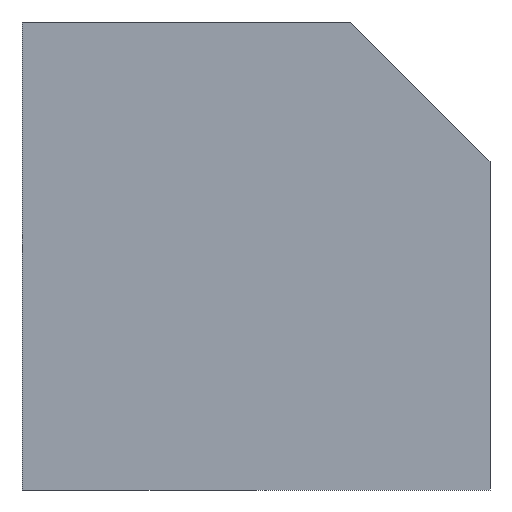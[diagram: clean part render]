
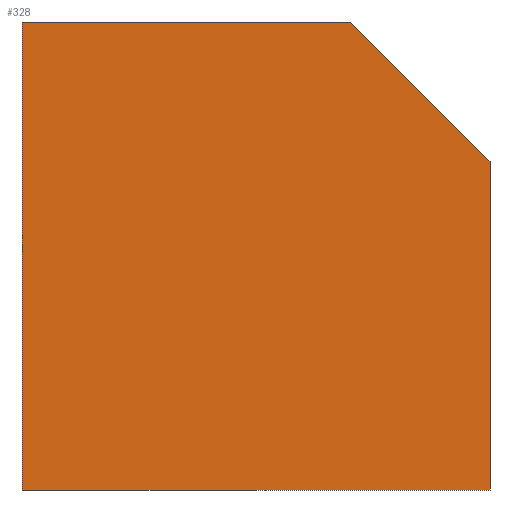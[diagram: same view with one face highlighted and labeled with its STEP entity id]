
A CAD part, left-side view. The second image highlights one B-rep face of the part: STEP entity #328.
In plain terms, the highlighted planar face has unit normal (-1, 0, 0).
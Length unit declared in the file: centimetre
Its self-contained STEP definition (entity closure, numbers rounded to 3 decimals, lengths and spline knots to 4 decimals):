
#1 = LINE ( 'NONE', #60, #110 ) ;
#29 = DIRECTION ( 'NONE',  ( 0., -1., 0. ) ) ;
#35 = LINE ( 'NONE', #144, #307 ) ;
#50 = CARTESIAN_POINT ( 'NONE',  ( 0., 1000., 1000. ) ) ;
#56 = FACE_OUTER_BOUND ( 'NONE', #274, .T. ) ;
#60 = CARTESIAN_POINT ( 'NONE',  ( 0., 298.609, 1000. ) ) ;
#62 = DIRECTION ( 'NONE',  ( 0., 0., -1. ) ) ;
#65 = DIRECTION ( 'NONE',  ( 0., -1., 0. ) ) ;
#68 = ORIENTED_EDGE ( 'NONE', *, *, #323, .T. ) ;
#78 = CARTESIAN_POINT ( 'NONE',  ( 0., 1000., 0. ) ) ;
#79 = VERTEX_POINT ( 'NONE', #121 ) ;
#85 = LINE ( 'NONE', #397, #380 ) ;
#96 = EDGE_CURVE ( 'NONE', #266, #79, #284, .T. ) ;
#99 = EDGE_CURVE ( 'NONE', #114, #79, #1, .T. ) ;
#104 = EDGE_CURVE ( 'NONE', #114, #333, #35, .T. ) ;
#110 = VECTOR ( 'NONE', #377, 100. ) ;
#114 = VERTEX_POINT ( 'NONE', #221 ) ;
#115 = CARTESIAN_POINT ( 'NONE',  ( 0., 1000., 1000. ) ) ;
#121 = CARTESIAN_POINT ( 'NONE',  ( 0., 298.609, 1000. ) ) ;
#124 = AXIS2_PLACEMENT_3D ( 'NONE', #50, #166, #178 ) ;
#144 = CARTESIAN_POINT ( 'NONE',  ( 0., 0., 1000. ) ) ;
#166 = DIRECTION ( 'NONE',  ( 1., 0., 0. ) ) ;
#178 = DIRECTION ( 'NONE',  ( 0., 0., -1. ) ) ;
#210 = CARTESIAN_POINT ( 'NONE',  ( 0., 1000., 1000. ) ) ;
#217 = CARTESIAN_POINT ( 'NONE',  ( 0., 1000., 0. ) ) ;
#221 = CARTESIAN_POINT ( 'NONE',  ( 0., 0., 701.391 ) ) ;
#236 = EDGE_CURVE ( 'NONE', #266, #367, #85, .T. ) ;
#266 = VERTEX_POINT ( 'NONE', #115 ) ;
#271 = VECTOR ( 'NONE', #29, 100. ) ;
#272 = ORIENTED_EDGE ( 'NONE', *, *, #99, .T. ) ;
#274 = EDGE_LOOP ( 'NONE', ( #392, #272, #393, #339, #68 ) ) ;
#284 = LINE ( 'NONE', #210, #325 ) ;
#301 = CARTESIAN_POINT ( 'NONE',  ( 0., 0., 0. ) ) ;
#307 = VECTOR ( 'NONE', #62, 100. ) ;
#323 = EDGE_CURVE ( 'NONE', #367, #333, #363, .T. ) ;
#325 = VECTOR ( 'NONE', #65, 100. ) ;
#328 = ADVANCED_FACE ( 'NONE', ( #56 ), #399, .F. ) ;
#333 = VERTEX_POINT ( 'NONE', #301 ) ;
#339 = ORIENTED_EDGE ( 'NONE', *, *, #236, .T. ) ;
#363 = LINE ( 'NONE', #78, #271 ) ;
#367 = VERTEX_POINT ( 'NONE', #217 ) ;
#369 = DIRECTION ( 'NONE',  ( 0., 0., -1. ) ) ;
#377 = DIRECTION ( 'NONE',  ( 0., 0.707, 0.707 ) ) ;
#380 = VECTOR ( 'NONE', #369, 100. ) ;
#392 = ORIENTED_EDGE ( 'NONE', *, *, #104, .F. ) ;
#393 = ORIENTED_EDGE ( 'NONE', *, *, #96, .F. ) ;
#397 = CARTESIAN_POINT ( 'NONE',  ( 0., 1000., 1000. ) ) ;
#399 = PLANE ( 'NONE',  #124 ) ;
